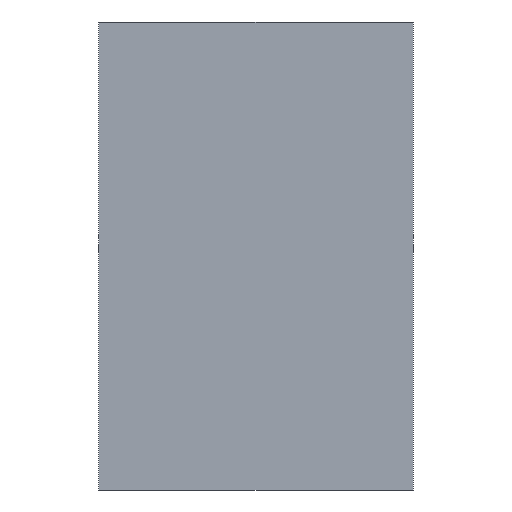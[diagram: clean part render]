
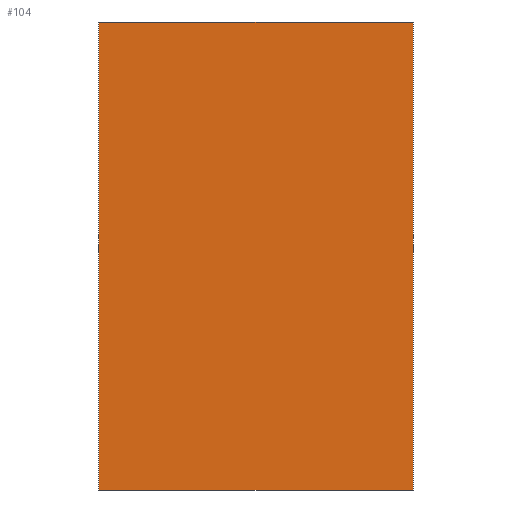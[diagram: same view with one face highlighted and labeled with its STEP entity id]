
A CAD part, left-side view. The second image highlights one B-rep face of the part: STEP entity #104.
In plain terms, the highlighted planar face has unit normal (-1, 0, 0).
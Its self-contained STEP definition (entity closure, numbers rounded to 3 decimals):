
#18=FACE_OUTER_BOUND('',#24,.T.);
#24=EDGE_LOOP('',(#83,#84,#85,#86));
#29=LINE('',#161,#41);
#33=LINE('',#170,#45);
#35=LINE('',#173,#47);
#37=LINE('',#176,#49);
#41=VECTOR('',#133,10.);
#45=VECTOR('',#139,10.);
#47=VECTOR('',#143,10.);
#49=VECTOR('',#147,10.);
#53=VERTEX_POINT('',#158);
#54=VERTEX_POINT('',#160);
#57=VERTEX_POINT('',#167);
#58=VERTEX_POINT('',#169);
#61=EDGE_CURVE('',#53,#54,#29,.T.);
#65=EDGE_CURVE('',#57,#58,#33,.T.);
#67=EDGE_CURVE('',#54,#57,#35,.T.);
#69=EDGE_CURVE('',#53,#58,#37,.T.);
#83=ORIENTED_EDGE('',*,*,#69,.T.);
#84=ORIENTED_EDGE('',*,*,#65,.F.);
#85=ORIENTED_EDGE('',*,*,#67,.F.);
#86=ORIENTED_EDGE('',*,*,#61,.F.);
#98=PLANE('',#124);
#104=ADVANCED_FACE('',(#18),#98,.F.);
#124=AXIS2_PLACEMENT_3D('',#175,#145,#146);
#133=DIRECTION('',(0.,-1.,0.));
#139=DIRECTION('',(0.,1.,0.));
#143=DIRECTION('',(0.,0.,-1.));
#145=DIRECTION('center_axis',(1.,0.,0.));
#146=DIRECTION('ref_axis',(0.,0.,-1.));
#147=DIRECTION('',(0.,0.,-1.));
#158=CARTESIAN_POINT('',(32.45,25.4,-5.05));
#160=CARTESIAN_POINT('',(32.45,20.6,-5.05));
#161=CARTESIAN_POINT('',(32.45,23.,-5.05));
#167=CARTESIAN_POINT('',(32.45,20.6,-12.2));
#169=CARTESIAN_POINT('',(32.45,25.4,-12.2));
#170=CARTESIAN_POINT('',(32.45,23.,-12.2));
#173=CARTESIAN_POINT('',(32.45,20.6,-8.625));
#175=CARTESIAN_POINT('Origin',(32.45,23.,-8.625));
#176=CARTESIAN_POINT('',(32.45,25.4,-8.625));
